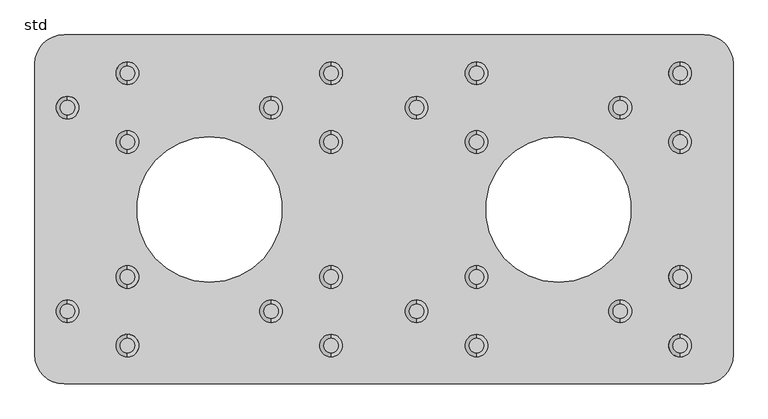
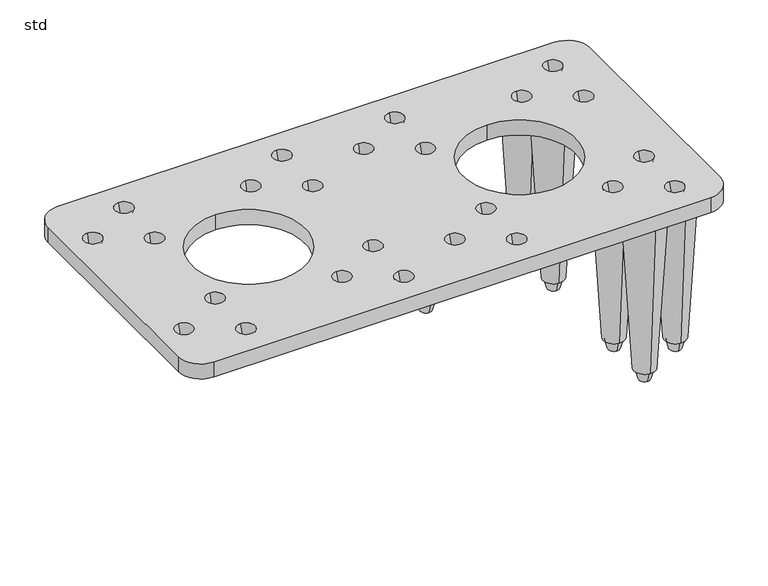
"""IFC4 building model written with IfcOpenShell, lengths in millimetres: unitary equipment geometry, Z_ME_UN_Aquacell_NG_Infiltration_Unit_Wavin_(nested) : std."""

from ifc_helpers import new_model, si_unit, frame, origin, place, context, project, spatial, polyline, circle_curve, source, transform, mapped, element, save
from ifc_brep_helpers import plane_surface, cylinder_surface, revolved_surface, advanced_brep


def std_054ed5cf(model_context):
    return source(origin(), model_context, "Body", "AdvancedBrep", [
        advanced_brep(
        [(794.0, 487.65, 175.0), (794.0, 462.35, 175.0), (794.0, 494.5, 200.0), (794.0, 455.5, 200.0)],
        [
            (0, 1, circle_curve(frame((794.0, 475.0, 175.0), z_axis=(0.0, 0.0, -1.0), x_axis=(0.0, 1.0, 0.0)), 12.65)),
            (1, 0, circle_curve(frame((794.0, 475.0, 175.0), z_axis=(0.0, 0.0, -1.0), x_axis=(0.0, -1.0, 0.0)), 12.65)),
            (2, 3, circle_curve(frame((794.0, 475.0, 200.0), z_axis=(0.0, 0.0, 1.0), x_axis=(0.0, -1.0, 0.0)), 19.5)),
            (3, 2, circle_curve(frame((794.0, 475.0, 200.0), z_axis=(0.0, 0.0, 1.0), x_axis=(0.0, 1.0, 0.0)), 19.5)),
            (3, 1),
            (0, 2),
        ],
        [
            plane_surface(frame((794.0, 475.0, 175.0), z_axis=(0.0, 0.0, -1.0), x_axis=(1.0, 0.0, 0.0))),
            plane_surface(frame((794.0, 475.0, 200.0), z_axis=(0.0, 0.0, 1.0), x_axis=(1.0, 0.0, 0.0))),
            revolved_surface(polyline([(794.0, 487.6499999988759, 175.0), (794.0, 494.5, 200.0)]), (794.0, 475.0, 128.8321168), (0.0, 0.0, 1.0)),
            revolved_surface(polyline([(794.0, 462.3500000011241, 175.0), (794.0, 455.5, 200.0)]), (794.0, 475.0, 128.8321168), (0.0, 0.0, 1.0)),
        ],
        [
            (0, [[1, 2]]),
            (1, [[3, 4]]),
            (2, [[-4, 5, -1, 6]]),
            (3, [[-3, -6, -2, -5]]),
        ],
    ),
        advanced_brep(
        [(794.0, 498.65, 200.0), (794.0, 451.35, 200.0), (794.0, 520.0, 565.0), (794.0, 430.0, 565.0)],
        [
            (0, 1, circle_curve(frame((794.0, 475.0, 200.0), z_axis=(0.0, 0.0, -1.0), x_axis=(0.0, 1.0, 0.0)), 23.65)),
            (1, 0, circle_curve(frame((794.0, 475.0, 200.0), z_axis=(0.0, 0.0, -1.0), x_axis=(0.0, -1.0, 0.0)), 23.65)),
            (2, 3, circle_curve(frame((794.0, 475.0, 565.0), z_axis=(0.0, 0.0, 1.0), x_axis=(0.0, -1.0, 0.0)), 45.0)),
            (3, 2, circle_curve(frame((794.0, 475.0, 565.0), z_axis=(0.0, 0.0, 1.0), x_axis=(0.0, 1.0, 0.0)), 45.0)),
            (3, 1),
            (0, 2),
        ],
        [
            plane_surface(frame((794.0, 475.0, 200.0), z_axis=(0.0, 0.0, -1.0), x_axis=(1.0, 0.0, 0.0))),
            plane_surface(frame((794.0, 475.0, 565.0), z_axis=(0.0, 0.0, 1.0), x_axis=(1.0, 0.0, 0.0))),
            revolved_surface(polyline([(794.0, 498.6500000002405, 199.99999999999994), (794.0, 520.0, 565.0)]), (794.0, 475.0, -204.3208431), (0.0, 0.0, 1.0)),
            revolved_surface(polyline([(794.0, 451.3499999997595, 199.99999999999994), (794.0, 430.0, 565.0)]), (794.0, 475.0, -204.3208431), (0.0, 0.0, 1.0)),
        ],
        [
            (0, [[1, 2]]),
            (1, [[3, 4]]),
            (2, [[-4, 5, -1, 6]]),
            (3, [[-3, -6, -2, -5]]),
        ],
    ),
        advanced_brep(
        [(1042.0, 78.65, 175.0), (1042.0, 53.35, 175.0), (1042.0, 85.5, 200.0), (1042.0, 46.5, 200.0)],
        [
            (0, 1, circle_curve(frame((1042.0, 66.0, 175.0), z_axis=(0.0, 0.0, -1.0), x_axis=(0.0, 1.0, 0.0)), 12.65)),
            (1, 0, circle_curve(frame((1042.0, 66.0, 175.0), z_axis=(0.0, 0.0, -1.0), x_axis=(0.0, -1.0, 0.0)), 12.65)),
            (2, 3, circle_curve(frame((1042.0, 66.0, 200.0), z_axis=(0.0, 0.0, 1.0), x_axis=(0.0, -1.0, 0.0)), 19.5)),
            (3, 2, circle_curve(frame((1042.0, 66.0, 200.0), z_axis=(0.0, 0.0, 1.0), x_axis=(0.0, 1.0, 0.0)), 19.5)),
            (3, 1),
            (0, 2),
        ],
        [
            plane_surface(frame((1042.0, 66.0, 175.0), z_axis=(0.0, 0.0, -1.0), x_axis=(1.0, 0.0, 0.0))),
            plane_surface(frame((1042.0, 66.0, 200.0), z_axis=(0.0, 0.0, 1.0), x_axis=(1.0, 0.0, 0.0))),
            revolved_surface(polyline([(1042.0, 78.6499999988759, 175.0), (1042.0, 85.5, 200.0)]), (1042.0, 66.0, 128.8321168), (0.0, 0.0, 1.0)),
            revolved_surface(polyline([(1042.0, 53.3500000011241, 175.0), (1042.0, 46.5, 200.0)]), (1042.0, 66.0, 128.8321168), (0.0, 0.0, 1.0)),
        ],
        [
            (0, [[1, 2]]),
            (1, [[3, 4]]),
            (2, [[-4, 5, -1, 6]]),
            (3, [[-3, -6, -2, -5]]),
        ],
    ),
        advanced_brep(
        [(1042.0, 196.65, 175.0), (1042.0, 171.35, 175.0), (1042.0, 203.5, 200.0), (1042.0, 164.5, 200.0)],
        [
            (0, 1, circle_curve(frame((1042.0, 184.0, 175.0), z_axis=(0.0, 0.0, -1.0), x_axis=(0.0, 1.0, 0.0)), 12.65)),
            (1, 0, circle_curve(frame((1042.0, 184.0, 175.0), z_axis=(0.0, 0.0, -1.0), x_axis=(0.0, -1.0, 0.0)), 12.65)),
            (2, 3, circle_curve(frame((1042.0, 184.0, 200.0), z_axis=(0.0, 0.0, 1.0), x_axis=(0.0, -1.0, 0.0)), 19.5)),
            (3, 2, circle_curve(frame((1042.0, 184.0, 200.0), z_axis=(0.0, 0.0, 1.0), x_axis=(0.0, 1.0, 0.0)), 19.5)),
            (3, 1),
            (0, 2),
        ],
        [
            plane_surface(frame((1042.0, 184.0, 175.0), z_axis=(0.0, 0.0, -1.0), x_axis=(1.0, 0.0, 0.0))),
            plane_surface(frame((1042.0, 184.0, 200.0), z_axis=(0.0, 0.0, 1.0), x_axis=(1.0, 0.0, 0.0))),
            revolved_surface(polyline([(1042.0, 196.6499999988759, 175.0), (1042.0, 203.5, 200.0)]), (1042.0, 184.0, 128.8321168), (0.0, 0.0, 1.0)),
            revolved_surface(polyline([(1042.0, 171.3500000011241, 175.0), (1042.0, 164.5, 200.0)]), (1042.0, 184.0, 128.8321168), (0.0, 0.0, 1.0)),
        ],
        [
            (0, [[1, 2]]),
            (1, [[3, 4]]),
            (2, [[-4, 5, -1, 6]]),
            (3, [[-3, -6, -2, -5]]),
        ],
    ),
        advanced_brep(
        [(1042.0, 89.65, 200.0), (1042.0, 42.35, 200.0), (1042.0, 111.0, 565.0), (1042.0, 21.0, 565.0)],
        [
            (0, 1, circle_curve(frame((1042.0, 66.0, 200.0), z_axis=(0.0, 0.0, -1.0), x_axis=(0.0, 1.0, 0.0)), 23.65)),
            (1, 0, circle_curve(frame((1042.0, 66.0, 200.0), z_axis=(0.0, 0.0, -1.0), x_axis=(0.0, -1.0, 0.0)), 23.65)),
            (2, 3, circle_curve(frame((1042.0, 66.0, 565.0), z_axis=(0.0, 0.0, 1.0), x_axis=(0.0, -1.0, 0.0)), 45.0)),
            (3, 2, circle_curve(frame((1042.0, 66.0, 565.0), z_axis=(0.0, 0.0, 1.0), x_axis=(0.0, 1.0, 0.0)), 45.0)),
            (3, 1),
            (0, 2),
        ],
        [
            plane_surface(frame((1042.0, 66.0, 200.0), z_axis=(0.0, 0.0, -1.0), x_axis=(1.0, 0.0, 0.0))),
            plane_surface(frame((1042.0, 66.0, 565.0), z_axis=(0.0, 0.0, 1.0), x_axis=(1.0, 0.0, 0.0))),
            revolved_surface(polyline([(1042.0, 89.65000000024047, 199.99999999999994), (1042.0, 111.0, 565.0)]), (1042.0, 66.0, -204.3208431), (0.0, 0.0, 1.0)),
            revolved_surface(polyline([(1042.0, 42.34999999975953, 199.99999999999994), (1042.0, 21.0, 565.0)]), (1042.0, 66.0, -204.3208431), (0.0, 0.0, 1.0)),
        ],
        [
            (0, [[1, 2]]),
            (1, [[3, 4]]),
            (2, [[-4, 5, -1, 6]]),
            (3, [[-3, -6, -2, -5]]),
        ],
    ),
        advanced_brep(
        [(1042.0, 207.65, 200.0), (1042.0, 160.35, 200.0), (1042.0, 229.0, 565.0), (1042.0, 139.0, 565.0)],
        [
            (0, 1, circle_curve(frame((1042.0, 184.0, 200.0), z_axis=(0.0, 0.0, -1.0), x_axis=(0.0, 1.0, 0.0)), 23.65)),
            (1, 0, circle_curve(frame((1042.0, 184.0, 200.0), z_axis=(0.0, 0.0, -1.0), x_axis=(0.0, -1.0, 0.0)), 23.65)),
            (2, 3, circle_curve(frame((1042.0, 184.0, 565.0), z_axis=(0.0, 0.0, 1.0), x_axis=(0.0, -1.0, 0.0)), 45.0)),
            (3, 2, circle_curve(frame((1042.0, 184.0, 565.0), z_axis=(0.0, 0.0, 1.0), x_axis=(0.0, 1.0, 0.0)), 45.0)),
            (3, 1),
            (0, 2),
        ],
        [
            plane_surface(frame((1042.0, 184.0, 200.0), z_axis=(0.0, 0.0, -1.0), x_axis=(1.0, 0.0, 0.0))),
            plane_surface(frame((1042.0, 184.0, 565.0), z_axis=(0.0, 0.0, 1.0), x_axis=(1.0, 0.0, 0.0))),
            revolved_surface(polyline([(1042.0, 207.65000000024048, 199.99999999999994), (1042.0, 229.0, 565.0)]), (1042.0, 184.0, -204.3208431), (0.0, 0.0, 1.0)),
            revolved_surface(polyline([(1042.0, 160.34999999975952, 199.99999999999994), (1042.0, 139.0, 565.0)]), (1042.0, 184.0, -204.3208431), (0.0, 0.0, 1.0)),
        ],
        [
            (0, [[1, 2]]),
            (1, [[3, 4]]),
            (2, [[-4, 5, -1, 6]]),
            (3, [[-3, -6, -2, -5]]),
        ],
    ),
        advanced_brep(
        [(1144.0, 137.65, 175.0), (1144.0, 112.35, 175.0), (1144.0, 144.5, 200.0), (1144.0, 105.5, 200.0)],
        [
            (0, 1, circle_curve(frame((1144.0, 125.0, 175.0), z_axis=(0.0, 0.0, -1.0), x_axis=(0.0, 1.0, 0.0)), 12.65)),
            (1, 0, circle_curve(frame((1144.0, 125.0, 175.0), z_axis=(0.0, 0.0, -1.0), x_axis=(0.0, -1.0, 0.0)), 12.65)),
            (2, 3, circle_curve(frame((1144.0, 125.0, 200.0), z_axis=(0.0, 0.0, 1.0), x_axis=(0.0, -1.0, 0.0)), 19.5)),
            (3, 2, circle_curve(frame((1144.0, 125.0, 200.0), z_axis=(0.0, 0.0, 1.0), x_axis=(0.0, 1.0, 0.0)), 19.5)),
            (3, 1),
            (0, 2),
        ],
        [
            plane_surface(frame((1144.0, 125.0, 175.0), z_axis=(0.0, 0.0, -1.0), x_axis=(1.0, 0.0, 0.0))),
            plane_surface(frame((1144.0, 125.0, 200.0), z_axis=(0.0, 0.0, 1.0), x_axis=(1.0, 0.0, 0.0))),
            revolved_surface(polyline([(1144.0, 137.6499999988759, 175.0), (1144.0, 144.5, 200.0)]), (1144.0, 125.0, 128.8321168), (0.0, 0.0, 1.0)),
            revolved_surface(polyline([(1144.0, 112.3500000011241, 175.0), (1144.0, 105.5, 200.0)]), (1144.0, 125.0, 128.8321168), (0.0, 0.0, 1.0)),
        ],
        [
            (0, [[1, 2]]),
            (1, [[3, 4]]),
            (2, [[-4, 5, -1, 6]]),
            (3, [[-3, -6, -2, -5]]),
        ],
    ),
        advanced_brep(
        [(1144.0, 148.65, 200.0), (1144.0, 101.35, 200.0), (1144.0, 170.0, 565.0), (1144.0, 80.0, 565.0)],
        [
            (0, 1, circle_curve(frame((1144.0, 125.0, 200.0), z_axis=(0.0, 0.0, -1.0), x_axis=(0.0, 1.0, 0.0)), 23.65)),
            (1, 0, circle_curve(frame((1144.0, 125.0, 200.0), z_axis=(0.0, 0.0, -1.0), x_axis=(0.0, -1.0, 0.0)), 23.65)),
            (2, 3, circle_curve(frame((1144.0, 125.0, 565.0), z_axis=(0.0, 0.0, 1.0), x_axis=(0.0, -1.0, 0.0)), 45.0)),
            (3, 2, circle_curve(frame((1144.0, 125.0, 565.0), z_axis=(0.0, 0.0, 1.0), x_axis=(0.0, 1.0, 0.0)), 45.0)),
            (3, 1),
            (0, 2),
        ],
        [
            plane_surface(frame((1144.0, 125.0, 200.0), z_axis=(0.0, 0.0, -1.0), x_axis=(1.0, 0.0, 0.0))),
            plane_surface(frame((1144.0, 125.0, 565.0), z_axis=(0.0, 0.0, 1.0), x_axis=(1.0, 0.0, 0.0))),
            revolved_surface(polyline([(1144.0, 148.65000000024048, 199.99999999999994), (1144.0, 170.0, 565.0)]), (1144.0, 125.0, -204.3208431), (0.0, 0.0, 1.0)),
            revolved_surface(polyline([(1144.0, 101.34999999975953, 199.99999999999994), (1144.0, 80.0, 565.0)]), (1144.0, 125.0, -204.3208431), (0.0, 0.0, 1.0)),
        ],
        [
            (0, [[1, 2]]),
            (1, [[3, 4]]),
            (2, [[-4, 5, -1, 6]]),
            (3, [[-3, -6, -2, -5]]),
        ],
    ),
        advanced_brep(
        [(1042.0, 428.65, 175.0), (1042.0, 403.35, 175.0), (1042.0, 435.5, 200.0), (1042.0, 396.5, 200.0)],
        [
            (0, 1, circle_curve(frame((1042.0, 416.0, 175.0), z_axis=(0.0, 0.0, -1.0), x_axis=(0.0, 1.0, 0.0)), 12.65)),
            (1, 0, circle_curve(frame((1042.0, 416.0, 175.0), z_axis=(0.0, 0.0, -1.0), x_axis=(0.0, -1.0, 0.0)), 12.65)),
            (2, 3, circle_curve(frame((1042.0, 416.0, 200.0), z_axis=(0.0, 0.0, 1.0), x_axis=(0.0, -1.0, 0.0)), 19.5)),
            (3, 2, circle_curve(frame((1042.0, 416.0, 200.0), z_axis=(0.0, 0.0, 1.0), x_axis=(0.0, 1.0, 0.0)), 19.5)),
            (3, 1),
            (0, 2),
        ],
        [
            plane_surface(frame((1042.0, 416.0, 175.0), z_axis=(0.0, 0.0, -1.0), x_axis=(1.0, 0.0, 0.0))),
            plane_surface(frame((1042.0, 416.0, 200.0), z_axis=(0.0, 0.0, 1.0), x_axis=(1.0, 0.0, 0.0))),
            revolved_surface(polyline([(1042.0, 428.6499999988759, 175.0), (1042.0, 435.5, 200.0)]), (1042.0, 416.0, 128.8321168), (0.0, 0.0, 1.0)),
            revolved_surface(polyline([(1042.0, 403.3500000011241, 175.0), (1042.0, 396.5, 200.0)]), (1042.0, 416.0, 128.8321168), (0.0, 0.0, 1.0)),
        ],
        [
            (0, [[1, 2]]),
            (1, [[3, 4]]),
            (2, [[-4, 5, -1, 6]]),
            (3, [[-3, -6, -2, -5]]),
        ],
    ),
        advanced_brep(
        [(1042.0, 546.65, 175.0), (1042.0, 521.35, 175.0), (1042.0, 553.5, 200.0), (1042.0, 514.5, 200.0)],
        [
            (0, 1, circle_curve(frame((1042.0, 534.0, 175.0), z_axis=(0.0, 0.0, -1.0), x_axis=(0.0, 1.0, 0.0)), 12.65)),
            (1, 0, circle_curve(frame((1042.0, 534.0, 175.0), z_axis=(0.0, 0.0, -1.0), x_axis=(0.0, -1.0, 0.0)), 12.65)),
            (2, 3, circle_curve(frame((1042.0, 534.0, 200.0), z_axis=(0.0, 0.0, 1.0), x_axis=(0.0, -1.0, 0.0)), 19.5)),
            (3, 2, circle_curve(frame((1042.0, 534.0, 200.0), z_axis=(0.0, 0.0, 1.0), x_axis=(0.0, 1.0, 0.0)), 19.5)),
            (3, 1),
            (0, 2),
        ],
        [
            plane_surface(frame((1042.0, 534.0, 175.0), z_axis=(0.0, 0.0, -1.0), x_axis=(1.0, 0.0, 0.0))),
            plane_surface(frame((1042.0, 534.0, 200.0), z_axis=(0.0, 0.0, 1.0), x_axis=(1.0, 0.0, 0.0))),
            revolved_surface(polyline([(1042.0, 546.6499999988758, 175.0), (1042.0, 553.5, 200.0)]), (1042.0, 534.0, 128.8321168), (0.0, 0.0, 1.0)),
            revolved_surface(polyline([(1042.0, 521.3500000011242, 175.0), (1042.0, 514.5, 200.0)]), (1042.0, 534.0, 128.8321168), (0.0, 0.0, 1.0)),
        ],
        [
            (0, [[1, 2]]),
            (1, [[3, 4]]),
            (2, [[-4, 5, -1, 6]]),
            (3, [[-3, -6, -2, -5]]),
        ],
    ),
        advanced_brep(
        [(1042.0, 439.65, 200.0), (1042.0, 392.35, 200.0), (1042.0, 461.0, 565.0), (1042.0, 371.0, 565.0)],
        [
            (0, 1, circle_curve(frame((1042.0, 416.0, 200.0), z_axis=(0.0, 0.0, -1.0), x_axis=(0.0, 1.0, 0.0)), 23.65)),
            (1, 0, circle_curve(frame((1042.0, 416.0, 200.0), z_axis=(0.0, 0.0, -1.0), x_axis=(0.0, -1.0, 0.0)), 23.65)),
            (2, 3, circle_curve(frame((1042.0, 416.0, 565.0), z_axis=(0.0, 0.0, 1.0), x_axis=(0.0, -1.0, 0.0)), 45.0)),
            (3, 2, circle_curve(frame((1042.0, 416.0, 565.0), z_axis=(0.0, 0.0, 1.0), x_axis=(0.0, 1.0, 0.0)), 45.0)),
            (3, 1),
            (0, 2),
        ],
        [
            plane_surface(frame((1042.0, 416.0, 200.0), z_axis=(0.0, 0.0, -1.0), x_axis=(1.0, 0.0, 0.0))),
            plane_surface(frame((1042.0, 416.0, 565.0), z_axis=(0.0, 0.0, 1.0), x_axis=(1.0, 0.0, 0.0))),
            revolved_surface(polyline([(1042.0, 439.6500000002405, 199.99999999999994), (1042.0, 461.0, 565.0)]), (1042.0, 416.0, -204.3208431), (0.0, 0.0, 1.0)),
            revolved_surface(polyline([(1042.0, 392.3499999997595, 199.99999999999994), (1042.0, 371.0, 565.0)]), (1042.0, 416.0, -204.3208431), (0.0, 0.0, 1.0)),
        ],
        [
            (0, [[1, 2]]),
            (1, [[3, 4]]),
            (2, [[-4, 5, -1, 6]]),
            (3, [[-3, -6, -2, -5]]),
        ],
    ),
        advanced_brep(
        [(1042.0, 557.65, 200.0), (1042.0, 510.35, 200.0), (1042.0, 579.0, 565.0), (1042.0, 489.0, 565.0)],
        [
            (0, 1, circle_curve(frame((1042.0, 534.0, 200.0), z_axis=(0.0, 0.0, -1.0), x_axis=(0.0, 1.0, 0.0)), 23.65)),
            (1, 0, circle_curve(frame((1042.0, 534.0, 200.0), z_axis=(0.0, 0.0, -1.0), x_axis=(0.0, -1.0, 0.0)), 23.65)),
            (2, 3, circle_curve(frame((1042.0, 534.0, 565.0), z_axis=(0.0, 0.0, 1.0), x_axis=(0.0, -1.0, 0.0)), 45.0)),
            (3, 2, circle_curve(frame((1042.0, 534.0, 565.0), z_axis=(0.0, 0.0, 1.0), x_axis=(0.0, 1.0, 0.0)), 45.0)),
            (3, 1),
            (0, 2),
        ],
        [
            plane_surface(frame((1042.0, 534.0, 200.0), z_axis=(0.0, 0.0, -1.0), x_axis=(1.0, 0.0, 0.0))),
            plane_surface(frame((1042.0, 534.0, 565.0), z_axis=(0.0, 0.0, 1.0), x_axis=(1.0, 0.0, 0.0))),
            revolved_surface(polyline([(1042.0, 557.6500000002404, 199.99999999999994), (1042.0, 579.0, 565.0)]), (1042.0, 534.0, -204.3208431), (0.0, 0.0, 1.0)),
            revolved_surface(polyline([(1042.0, 510.3499999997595, 199.99999999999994), (1042.0, 489.0, 565.0)]), (1042.0, 534.0, -204.3208431), (0.0, 0.0, 1.0)),
        ],
        [
            (0, [[1, 2]]),
            (1, [[3, 4]]),
            (2, [[-4, 5, -1, 6]]),
            (3, [[-3, -6, -2, -5]]),
        ],
    ),
        advanced_brep(
        [(1150.0, 600.0, 565.0), (1200.0, 550.0, 565.0), (1200.0, 50.0, 565.0), (1150.0, 0.0, 565.0), (50.0, 0.0, 565.0), (0.0, 50.0, 565.0), (0.0, 550.0, 565.0), (50.0, 600.0, 565.0), (300.0, 425.0, 565.0), (300.0, 175.0, 565.0), (900.0, 425.0, 565.0), (900.0, 175.0, 565.0), (1150.0, 600.0, 600.0), (50.0, 600.0, 600.0), (0.0, 550.0, 600.0), (0.0, 50.0, 600.0), (50.0, 0.0, 600.0), (1150.0, 0.0, 600.0), (1200.0, 50.0, 600.0), (1200.0, 550.0, 600.0), (300.0, 425.0, 600.0), (300.0, 175.0, 600.0), (406.0, 494.5, 600.0), (406.0, 455.5, 600.0), (509.0, 553.5, 600.0), (509.0, 514.5, 600.0), (509.0, 435.5, 600.0), (509.0, 396.5, 600.0), (656.0, 494.5, 600.0), (656.0, 455.5, 600.0), (759.0, 553.5, 600.0), (759.0, 514.5, 600.0), (759.0, 435.5, 600.0), (759.0, 396.5, 600.0), (1006.0, 494.5, 600.0), (1006.0, 455.5, 600.0), (1109.0, 553.5, 600.0), (1109.0, 514.5, 600.0), (1109.0, 435.5, 600.0), (1109.0, 396.5, 600.0), (1006.0, 144.5, 600.0), (1006.0, 105.5, 600.0), (1109.0, 203.5, 600.0), (1109.0, 164.5, 600.0), (1109.0, 85.5, 600.0), (1109.0, 46.5, 600.0), (656.0, 144.5, 600.0), (656.0, 105.5, 600.0), (759.0, 203.5, 600.0), (759.0, 164.5, 600.0), (759.0, 85.5, 600.0), (759.0, 46.5, 600.0), (406.0, 144.5, 600.0), (406.0, 105.5, 600.0), (509.0, 203.5, 600.0), (509.0, 164.5, 600.0), (509.0, 85.5, 600.0), (509.0, 46.5, 600.0), (56.0, 144.5, 600.0), (56.0, 105.5, 600.0), (159.0, 203.5, 600.0), (159.0, 164.5, 600.0), (159.0, 85.5, 600.0), (159.0, 46.5, 600.0), (159.0, 553.5, 600.0), (159.0, 514.5, 600.0), (56.0, 494.5, 600.0), (56.0, 455.5, 600.0), (159.0, 435.5, 600.0), (159.0, 396.5, 600.0), (900.0, 175.0, 600.0), (900.0, 425.0, 600.0), (406.0, 487.65, 575.0), (406.0, 462.35, 575.0), (509.0, 546.65, 575.0), (509.0, 521.35, 575.0), (509.0, 428.65, 575.0), (509.0, 403.35, 575.0), (656.0, 487.65, 575.0), (656.0, 462.35, 575.0), (759.0, 546.65, 575.0), (759.0, 521.35, 575.0), (759.0, 428.65, 575.0), (759.0, 403.35, 575.0), (1006.0, 487.65, 575.0), (1006.0, 462.35, 575.0), (1109.0, 546.65, 575.0), (1109.0, 521.35, 575.0), (1109.0, 428.65, 575.0), (1109.0, 403.35, 575.0), (1006.0, 137.65, 575.0), (1006.0, 112.35, 575.0), (1109.0, 196.65, 575.0), (1109.0, 171.35, 575.0), (1109.0, 78.65, 575.0), (1109.0, 53.35, 575.0), (656.0, 137.65, 575.0), (656.0, 112.35, 575.0), (759.0, 196.65, 575.0), (759.0, 171.35, 575.0), (759.0, 78.65, 575.0), (759.0, 53.35, 575.0), (406.0, 137.65, 575.0), (406.0, 112.35, 575.0), (509.0, 196.65, 575.0), (509.0, 171.35, 575.0), (509.0, 78.65, 575.0), (509.0, 53.35, 575.0), (56.0, 137.65, 575.0), (56.0, 112.35, 575.0), (159.0, 196.65, 575.0), (159.0, 171.35, 575.0), (159.0, 78.65, 575.0), (159.0, 53.35, 575.0), (159.0, 546.65, 575.0), (159.0, 521.35, 575.0), (56.0, 487.65, 575.0), (56.0, 462.35, 575.0), (159.0, 428.65, 575.0), (159.0, 403.35, 575.0)],
        [
            (0, 1, circle_curve(frame((1150.0, 550.0, 565.0), z_axis=(0.0, 0.0, -1.0), x_axis=(0.0, -1.0, 0.0)), 50.0)),
            (1, 2),
            (2, 3, circle_curve(frame((1150.0, 50.0, 565.0), z_axis=(0.0, 0.0, -1.0), x_axis=(0.0, -1.0, 0.0)), 50.0)),
            (3, 4),
            (4, 5, circle_curve(frame((50.0, 50.0, 565.0), z_axis=(0.0, 0.0, -1.0), x_axis=(0.0, -1.0, 0.0)), 50.0)),
            (5, 6),
            (6, 7, circle_curve(frame((50.0, 550.0, 565.0), z_axis=(0.0, 0.0, -1.0), x_axis=(0.0, -1.0, 0.0)), 50.0)),
            (7, 0),
            (8, 9, circle_curve(frame((300.0, 300.0, 565.0), z_axis=(0.0, 0.0, 1.0), x_axis=(0.0, -1.0, 0.0)), 125.0)),
            (9, 8, circle_curve(frame((300.0, 300.0, 565.0), z_axis=(0.0, 0.0, 1.0), x_axis=(0.0, -1.0, 0.0)), 125.0)),
            (10, 11, circle_curve(frame((900.0, 300.0, 565.0), z_axis=(0.0, 0.0, 1.0), x_axis=(0.0, -1.0, 0.0)), 125.0)),
            (11, 10, circle_curve(frame((900.0, 300.0, 565.0), z_axis=(0.0, 0.0, 1.0), x_axis=(0.0, -1.0, 0.0)), 125.0)),
            (12, 13),
            (13, 14, circle_curve(frame((50.0, 550.0, 600.0), z_axis=(0.0, 0.0, 1.0), x_axis=(0.0, -1.0, 0.0)), 50.0)),
            (14, 15),
            (15, 16, circle_curve(frame((50.0, 50.0, 600.0), z_axis=(0.0, 0.0, 1.0), x_axis=(0.0, -1.0, 0.0)), 50.0)),
            (16, 17),
            (17, 18, circle_curve(frame((1150.0, 50.0, 600.0), z_axis=(0.0, 0.0, 1.0), x_axis=(0.0, -1.0, 0.0)), 50.0)),
            (18, 19),
            (19, 12, circle_curve(frame((1150.0, 550.0, 600.0), z_axis=(0.0, 0.0, 1.0), x_axis=(0.0, -1.0, 0.0)), 50.0)),
            (20, 21, circle_curve(frame((300.0, 300.0, 600.0), z_axis=(0.0, 0.0, -1.0), x_axis=(0.0, -1.0, 0.0)), 125.0)),
            (21, 20, circle_curve(frame((300.0, 300.0, 600.0), z_axis=(0.0, 0.0, -1.0), x_axis=(0.0, -1.0, 0.0)), 125.0)),
            (22, 23, circle_curve(frame((406.0, 475.0, 600.0), z_axis=(0.0, 0.0, -1.0), x_axis=(0.0, 1.0, 0.0)), 19.5)),
            (23, 22, circle_curve(frame((406.0, 475.0, 600.0), z_axis=(0.0, 0.0, -1.0), x_axis=(0.0, -1.0, 0.0)), 19.5)),
            (24, 25, circle_curve(frame((509.0, 534.0, 600.0), z_axis=(0.0, 0.0, -1.0), x_axis=(0.0, 1.0, 0.0)), 19.5)),
            (25, 24, circle_curve(frame((509.0, 534.0, 600.0), z_axis=(0.0, 0.0, -1.0), x_axis=(0.0, -1.0, 0.0)), 19.5)),
            (26, 27, circle_curve(frame((509.0, 416.0, 600.0), z_axis=(0.0, 0.0, -1.0), x_axis=(0.0, 1.0, 0.0)), 19.5)),
            (27, 26, circle_curve(frame((509.0, 416.0, 600.0), z_axis=(0.0, 0.0, -1.0), x_axis=(0.0, -1.0, 0.0)), 19.5)),
            (28, 29, circle_curve(frame((656.0, 475.0, 600.0), z_axis=(0.0, 0.0, -1.0), x_axis=(0.0, 1.0, 0.0)), 19.5)),
            (29, 28, circle_curve(frame((656.0, 475.0, 600.0), z_axis=(0.0, 0.0, -1.0), x_axis=(0.0, -1.0, 0.0)), 19.5)),
            (30, 31, circle_curve(frame((759.0, 534.0, 600.0), z_axis=(0.0, 0.0, -1.0), x_axis=(0.0, 1.0, 0.0)), 19.5)),
            (31, 30, circle_curve(frame((759.0, 534.0, 600.0), z_axis=(0.0, 0.0, -1.0), x_axis=(0.0, -1.0, 0.0)), 19.5)),
            (32, 33, circle_curve(frame((759.0, 416.0, 600.0), z_axis=(0.0, 0.0, -1.0), x_axis=(0.0, 1.0, 0.0)), 19.5)),
            (33, 32, circle_curve(frame((759.0, 416.0, 600.0), z_axis=(0.0, 0.0, -1.0), x_axis=(0.0, -1.0, 0.0)), 19.5)),
            (34, 35, circle_curve(frame((1006.0, 475.0, 600.0), z_axis=(0.0, 0.0, -1.0), x_axis=(0.0, 1.0, 0.0)), 19.5)),
            (35, 34, circle_curve(frame((1006.0, 475.0, 600.0), z_axis=(0.0, 0.0, -1.0), x_axis=(0.0, -1.0, 0.0)), 19.5)),
            (36, 37, circle_curve(frame((1109.0, 534.0, 600.0), z_axis=(0.0, 0.0, -1.0), x_axis=(0.0, 1.0, 0.0)), 19.5)),
            (37, 36, circle_curve(frame((1109.0, 534.0, 600.0), z_axis=(0.0, 0.0, -1.0), x_axis=(0.0, -1.0, 0.0)), 19.5)),
            (38, 39, circle_curve(frame((1109.0, 416.0, 600.0), z_axis=(0.0, 0.0, -1.0), x_axis=(0.0, 1.0, 0.0)), 19.5)),
            (39, 38, circle_curve(frame((1109.0, 416.0, 600.0), z_axis=(0.0, 0.0, -1.0), x_axis=(0.0, -1.0, 0.0)), 19.5)),
            (40, 41, circle_curve(frame((1006.0, 125.0, 600.0), z_axis=(0.0, 0.0, -1.0), x_axis=(0.0, 1.0, 0.0)), 19.5)),
            (41, 40, circle_curve(frame((1006.0, 125.0, 600.0), z_axis=(0.0, 0.0, -1.0), x_axis=(0.0, -1.0, 0.0)), 19.5)),
            (42, 43, circle_curve(frame((1109.0, 184.0, 600.0), z_axis=(0.0, 0.0, -1.0), x_axis=(0.0, 1.0, 0.0)), 19.5)),
            (43, 42, circle_curve(frame((1109.0, 184.0, 600.0), z_axis=(0.0, 0.0, -1.0), x_axis=(0.0, -1.0, 0.0)), 19.5)),
            (44, 45, circle_curve(frame((1109.0, 66.0, 600.0), z_axis=(0.0, 0.0, -1.0), x_axis=(0.0, 1.0, 0.0)), 19.5)),
            (45, 44, circle_curve(frame((1109.0, 66.0, 600.0), z_axis=(0.0, 0.0, -1.0), x_axis=(0.0, -1.0, 0.0)), 19.5)),
            (46, 47, circle_curve(frame((656.0, 125.0, 600.0), z_axis=(0.0, 0.0, -1.0), x_axis=(0.0, 1.0, 0.0)), 19.5)),
            (47, 46, circle_curve(frame((656.0, 125.0, 600.0), z_axis=(0.0, 0.0, -1.0), x_axis=(0.0, -1.0, 0.0)), 19.5)),
            (48, 49, circle_curve(frame((759.0, 184.0, 600.0), z_axis=(0.0, 0.0, -1.0), x_axis=(0.0, 1.0, 0.0)), 19.5)),
            (49, 48, circle_curve(frame((759.0, 184.0, 600.0), z_axis=(0.0, 0.0, -1.0), x_axis=(0.0, -1.0, 0.0)), 19.5)),
            (50, 51, circle_curve(frame((759.0, 66.0, 600.0), z_axis=(0.0, 0.0, -1.0), x_axis=(0.0, 1.0, 0.0)), 19.5)),
            (51, 50, circle_curve(frame((759.0, 66.0, 600.0), z_axis=(0.0, 0.0, -1.0), x_axis=(0.0, -1.0, 0.0)), 19.5)),
            (52, 53, circle_curve(frame((406.0, 125.0, 600.0), z_axis=(0.0, 0.0, -1.0), x_axis=(0.0, 1.0, 0.0)), 19.5)),
            (53, 52, circle_curve(frame((406.0, 125.0, 600.0), z_axis=(0.0, 0.0, -1.0), x_axis=(0.0, -1.0, 0.0)), 19.5)),
            (54, 55, circle_curve(frame((509.0, 184.0, 600.0), z_axis=(0.0, 0.0, -1.0), x_axis=(0.0, 1.0, 0.0)), 19.5)),
            (55, 54, circle_curve(frame((509.0, 184.0, 600.0), z_axis=(0.0, 0.0, -1.0), x_axis=(0.0, -1.0, 0.0)), 19.5)),
            (56, 57, circle_curve(frame((509.0, 66.0, 600.0), z_axis=(0.0, 0.0, -1.0), x_axis=(0.0, 1.0, 0.0)), 19.5)),
            (57, 56, circle_curve(frame((509.0, 66.0, 600.0), z_axis=(0.0, 0.0, -1.0), x_axis=(0.0, -1.0, 0.0)), 19.5)),
            (58, 59, circle_curve(frame((56.0, 125.0, 600.0), z_axis=(0.0, 0.0, -1.0), x_axis=(0.0, 1.0, 0.0)), 19.5)),
            (59, 58, circle_curve(frame((56.0, 125.0, 600.0), z_axis=(0.0, 0.0, -1.0), x_axis=(0.0, -1.0, 0.0)), 19.5)),
            (60, 61, circle_curve(frame((159.0, 184.0, 600.0), z_axis=(0.0, 0.0, -1.0), x_axis=(0.0, 1.0, 0.0)), 19.5)),
            (61, 60, circle_curve(frame((159.0, 184.0, 600.0), z_axis=(0.0, 0.0, -1.0), x_axis=(0.0, -1.0, 0.0)), 19.5)),
            (62, 63, circle_curve(frame((159.0, 66.0, 600.0), z_axis=(0.0, 0.0, -1.0), x_axis=(0.0, 1.0, 0.0)), 19.5)),
            (63, 62, circle_curve(frame((159.0, 66.0, 600.0), z_axis=(0.0, 0.0, -1.0), x_axis=(0.0, -1.0, 0.0)), 19.5)),
            (64, 65, circle_curve(frame((159.0, 534.0, 600.0), z_axis=(0.0, 0.0, -1.0), x_axis=(0.0, 1.0, 0.0)), 19.5)),
            (65, 64, circle_curve(frame((159.0, 534.0, 600.0), z_axis=(0.0, 0.0, -1.0), x_axis=(0.0, -1.0, 0.0)), 19.5)),
            (66, 67, circle_curve(frame((56.0, 475.0, 600.0), z_axis=(0.0, 0.0, -1.0), x_axis=(0.0, 1.0, 0.0)), 19.5)),
            (67, 66, circle_curve(frame((56.0, 475.0, 600.0), z_axis=(0.0, 0.0, -1.0), x_axis=(0.0, -1.0, 0.0)), 19.5)),
            (68, 69, circle_curve(frame((159.0, 416.0, 600.0), z_axis=(0.0, 0.0, -1.0), x_axis=(0.0, 1.0, 0.0)), 19.5)),
            (69, 68, circle_curve(frame((159.0, 416.0, 600.0), z_axis=(0.0, 0.0, -1.0), x_axis=(0.0, -1.0, 0.0)), 19.5)),
            (70, 71, circle_curve(frame((900.0, 300.0, 600.0), z_axis=(0.0, 0.0, -1.0), x_axis=(0.0, -1.0, 0.0)), 125.0)),
            (71, 70, circle_curve(frame((900.0, 300.0, 600.0), z_axis=(0.0, 0.0, -1.0), x_axis=(0.0, -1.0, 0.0)), 125.0)),
            (7, 13),
            (12, 0),
            (6, 14),
            (5, 15),
            (4, 16),
            (3, 17),
            (2, 18),
            (1, 19),
            (9, 21),
            (20, 8),
            (72, 73, circle_curve(frame((406.0, 475.0, 575.0), z_axis=(0.0, 0.0, 1.0), x_axis=(0.0, -1.0, 0.0)), 12.65)),
            (73, 72, circle_curve(frame((406.0, 475.0, 575.0), z_axis=(0.0, 0.0, 1.0), x_axis=(0.0, 1.0, 0.0)), 12.65)),
            (73, 23),
            (22, 72),
            (74, 75, circle_curve(frame((509.0, 534.0, 575.0), z_axis=(0.0, 0.0, 1.0), x_axis=(0.0, -1.0, 0.0)), 12.65)),
            (75, 74, circle_curve(frame((509.0, 534.0, 575.0), z_axis=(0.0, 0.0, 1.0), x_axis=(0.0, 1.0, 0.0)), 12.65)),
            (75, 25),
            (24, 74),
            (76, 77, circle_curve(frame((509.0, 416.0, 575.0), z_axis=(0.0, 0.0, 1.0), x_axis=(0.0, -1.0, 0.0)), 12.65)),
            (77, 76, circle_curve(frame((509.0, 416.0, 575.0), z_axis=(0.0, 0.0, 1.0), x_axis=(0.0, 1.0, 0.0)), 12.65)),
            (77, 27),
            (26, 76),
            (78, 79, circle_curve(frame((656.0, 475.0, 575.0), z_axis=(0.0, 0.0, 1.0), x_axis=(0.0, -1.0, 0.0)), 12.65)),
            (79, 78, circle_curve(frame((656.0, 475.0, 575.0), z_axis=(0.0, 0.0, 1.0), x_axis=(0.0, 1.0, 0.0)), 12.65)),
            (79, 29),
            (28, 78),
            (80, 81, circle_curve(frame((759.0, 534.0, 575.0), z_axis=(0.0, 0.0, 1.0), x_axis=(0.0, -1.0, 0.0)), 12.65)),
            (81, 80, circle_curve(frame((759.0, 534.0, 575.0), z_axis=(0.0, 0.0, 1.0), x_axis=(0.0, 1.0, 0.0)), 12.65)),
            (81, 31),
            (30, 80),
            (82, 83, circle_curve(frame((759.0, 416.0, 575.0), z_axis=(0.0, 0.0, 1.0), x_axis=(0.0, -1.0, 0.0)), 12.65)),
            (83, 82, circle_curve(frame((759.0, 416.0, 575.0), z_axis=(0.0, 0.0, 1.0), x_axis=(0.0, 1.0, 0.0)), 12.65)),
            (83, 33),
            (32, 82),
            (84, 85, circle_curve(frame((1006.0, 475.0, 575.0), z_axis=(0.0, 0.0, 1.0), x_axis=(0.0, -1.0, 0.0)), 12.65)),
            (85, 84, circle_curve(frame((1006.0, 475.0, 575.0), z_axis=(0.0, 0.0, 1.0), x_axis=(0.0, 1.0, 0.0)), 12.65)),
            (85, 35),
            (34, 84),
            (86, 87, circle_curve(frame((1109.0, 534.0, 575.0), z_axis=(0.0, 0.0, 1.0), x_axis=(0.0, -1.0, 0.0)), 12.65)),
            (87, 86, circle_curve(frame((1109.0, 534.0, 575.0), z_axis=(0.0, 0.0, 1.0), x_axis=(0.0, 1.0, 0.0)), 12.65)),
            (87, 37),
            (36, 86),
            (88, 89, circle_curve(frame((1109.0, 416.0, 575.0), z_axis=(0.0, 0.0, 1.0), x_axis=(0.0, -1.0, 0.0)), 12.65)),
            (89, 88, circle_curve(frame((1109.0, 416.0, 575.0), z_axis=(0.0, 0.0, 1.0), x_axis=(0.0, 1.0, 0.0)), 12.65)),
            (89, 39),
            (38, 88),
            (90, 91, circle_curve(frame((1006.0, 125.0, 575.0), z_axis=(0.0, 0.0, 1.0), x_axis=(0.0, -1.0, 0.0)), 12.65)),
            (91, 90, circle_curve(frame((1006.0, 125.0, 575.0), z_axis=(0.0, 0.0, 1.0), x_axis=(0.0, 1.0, 0.0)), 12.65)),
            (91, 41),
            (40, 90),
            (92, 93, circle_curve(frame((1109.0, 184.0, 575.0), z_axis=(0.0, 0.0, 1.0), x_axis=(0.0, -1.0, 0.0)), 12.65)),
            (93, 92, circle_curve(frame((1109.0, 184.0, 575.0), z_axis=(0.0, 0.0, 1.0), x_axis=(0.0, 1.0, 0.0)), 12.65)),
            (93, 43),
            (42, 92),
            (94, 95, circle_curve(frame((1109.0, 66.0, 575.0), z_axis=(0.0, 0.0, 1.0), x_axis=(0.0, -1.0, 0.0)), 12.65)),
            (95, 94, circle_curve(frame((1109.0, 66.0, 575.0), z_axis=(0.0, 0.0, 1.0), x_axis=(0.0, 1.0, 0.0)), 12.65)),
            (95, 45),
            (44, 94),
            (96, 97, circle_curve(frame((656.0, 125.0, 575.0), z_axis=(0.0, 0.0, 1.0), x_axis=(0.0, -1.0, 0.0)), 12.65)),
            (97, 96, circle_curve(frame((656.0, 125.0, 575.0), z_axis=(0.0, 0.0, 1.0), x_axis=(0.0, 1.0, 0.0)), 12.65)),
            (97, 47),
            (46, 96),
            (98, 99, circle_curve(frame((759.0, 184.0, 575.0), z_axis=(0.0, 0.0, 1.0), x_axis=(0.0, -1.0, 0.0)), 12.65)),
            (99, 98, circle_curve(frame((759.0, 184.0, 575.0), z_axis=(0.0, 0.0, 1.0), x_axis=(0.0, 1.0, 0.0)), 12.65)),
            (99, 49),
            (48, 98),
            (100, 101, circle_curve(frame((759.0, 66.0, 575.0), z_axis=(0.0, 0.0, 1.0), x_axis=(0.0, -1.0, 0.0)), 12.65)),
            (101, 100, circle_curve(frame((759.0, 66.0, 575.0), z_axis=(0.0, 0.0, 1.0), x_axis=(0.0, 1.0, 0.0)), 12.65)),
            (101, 51),
            (50, 100),
            (102, 103, circle_curve(frame((406.0, 125.0, 575.0), z_axis=(0.0, 0.0, 1.0), x_axis=(0.0, -1.0, 0.0)), 12.65)),
            (103, 102, circle_curve(frame((406.0, 125.0, 575.0), z_axis=(0.0, 0.0, 1.0), x_axis=(0.0, 1.0, 0.0)), 12.65)),
            (103, 53),
            (52, 102),
            (104, 105, circle_curve(frame((509.0, 184.0, 575.0), z_axis=(0.0, 0.0, 1.0), x_axis=(0.0, -1.0, 0.0)), 12.65)),
            (105, 104, circle_curve(frame((509.0, 184.0, 575.0), z_axis=(0.0, 0.0, 1.0), x_axis=(0.0, 1.0, 0.0)), 12.65)),
            (105, 55),
            (54, 104),
            (106, 107, circle_curve(frame((509.0, 66.0, 575.0), z_axis=(0.0, 0.0, 1.0), x_axis=(0.0, -1.0, 0.0)), 12.65)),
            (107, 106, circle_curve(frame((509.0, 66.0, 575.0), z_axis=(0.0, 0.0, 1.0), x_axis=(0.0, 1.0, 0.0)), 12.65)),
            (107, 57),
            (56, 106),
            (108, 109, circle_curve(frame((56.0, 125.0, 575.0), z_axis=(0.0, 0.0, 1.0), x_axis=(0.0, -1.0, 0.0)), 12.65)),
            (109, 108, circle_curve(frame((56.0, 125.0, 575.0), z_axis=(0.0, 0.0, 1.0), x_axis=(0.0, 1.0, 0.0)), 12.65)),
            (109, 59),
            (58, 108),
            (110, 111, circle_curve(frame((159.0, 184.0, 575.0), z_axis=(0.0, 0.0, 1.0), x_axis=(0.0, -1.0, 0.0)), 12.65)),
            (111, 110, circle_curve(frame((159.0, 184.0, 575.0), z_axis=(0.0, 0.0, 1.0), x_axis=(0.0, 1.0, 0.0)), 12.65)),
            (111, 61),
            (60, 110),
            (112, 113, circle_curve(frame((159.0, 66.0, 575.0), z_axis=(0.0, 0.0, 1.0), x_axis=(0.0, -1.0, 0.0)), 12.65)),
            (113, 112, circle_curve(frame((159.0, 66.0, 575.0), z_axis=(0.0, 0.0, 1.0), x_axis=(0.0, 1.0, 0.0)), 12.65)),
            (113, 63),
            (62, 112),
            (114, 115, circle_curve(frame((159.0, 534.0, 575.0), z_axis=(0.0, 0.0, 1.0), x_axis=(0.0, -1.0, 0.0)), 12.65)),
            (115, 114, circle_curve(frame((159.0, 534.0, 575.0), z_axis=(0.0, 0.0, 1.0), x_axis=(0.0, 1.0, 0.0)), 12.65)),
            (115, 65),
            (64, 114),
            (116, 117, circle_curve(frame((56.0, 475.0, 575.0), z_axis=(0.0, 0.0, 1.0), x_axis=(0.0, -1.0, 0.0)), 12.65)),
            (117, 116, circle_curve(frame((56.0, 475.0, 575.0), z_axis=(0.0, 0.0, 1.0), x_axis=(0.0, 1.0, 0.0)), 12.65)),
            (117, 67),
            (66, 116),
            (118, 119, circle_curve(frame((159.0, 416.0, 575.0), z_axis=(0.0, 0.0, 1.0), x_axis=(0.0, -1.0, 0.0)), 12.65)),
            (119, 118, circle_curve(frame((159.0, 416.0, 575.0), z_axis=(0.0, 0.0, 1.0), x_axis=(0.0, 1.0, 0.0)), 12.65)),
            (119, 69),
            (68, 118),
            (70, 11),
            (10, 71),
        ],
        [
            plane_surface(frame((50.0, 600.0, 565.0), z_axis=(0.0, 0.0, -1.0), x_axis=(1.0, 0.0, 0.0))),
            plane_surface(frame((50.0, 600.0, 600.0), z_axis=(0.0, 0.0, 1.0), x_axis=(-1.0, 0.0, 0.0))),
            plane_surface(frame((1150.0, 600.0, 600.0), z_axis=(0.0, 1.0, 0.0), x_axis=(0.0, 0.0, -1.0))),
            cylinder_surface(frame((50.0, 550.0, 565.0), z_axis=(0.0, 0.0, 1.0), x_axis=(0.0, -1.0, 0.0)), 50.0),
            plane_surface(frame((0.0, 550.0, 600.0), z_axis=(-1.0, 0.0, 0.0), x_axis=(0.0, 0.0, -1.0))),
            cylinder_surface(frame((50.0, 50.0, 565.0), z_axis=(0.0, 0.0, 1.0), x_axis=(0.0, -1.0, 0.0)), 50.0),
            plane_surface(frame((50.0, 0.0, 600.0), z_axis=(0.0, -1.0, 0.0), x_axis=(0.0, 0.0, -1.0))),
            cylinder_surface(frame((1150.0, 50.0, 565.0), z_axis=(0.0, 0.0, 1.0), x_axis=(0.0, -1.0, 0.0)), 50.0),
            plane_surface(frame((1200.0, 50.0, 600.0), z_axis=(1.0, 0.0, 0.0), x_axis=(0.0, 0.0, -1.0))),
            cylinder_surface(frame((1150.0, 550.0, 565.0), z_axis=(0.0, 0.0, 1.0), x_axis=(0.0, -1.0, 0.0)), 50.0),
            revolved_surface(polyline([(300.0, 175.0, 565.0), (300.0, 175.0, 600.0)]), (300.0, 300.0, 600.0), (0.0, 0.0, -1.0)),
            plane_surface(frame((406.0, 475.0, 575.0), z_axis=(0.0, 0.0, 1.0), x_axis=(1.0, 0.0, 0.0))),
            revolved_surface(polyline([(406.0, 455.5, 600.0), (406.0, 462.3500000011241, 575.0)]), (406.0, 475.0, 528.8321168), (0.0, 0.0, 1.0)),
            revolved_surface(polyline([(406.0, 494.5, 600.0), (406.0, 487.6499999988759, 575.0)]), (406.0, 475.0, 528.8321168), (0.0, 0.0, 1.0)),
            plane_surface(frame((509.0, 534.0, 575.0), z_axis=(0.0, 0.0, 1.0), x_axis=(1.0, 0.0, 0.0))),
            revolved_surface(polyline([(509.0, 514.5, 600.0), (509.0, 521.3500000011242, 575.0)]), (509.0, 534.0, 528.8321168), (0.0, 0.0, 1.0)),
            revolved_surface(polyline([(509.0, 553.5, 600.0), (509.0, 546.6499999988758, 575.0)]), (509.0, 534.0, 528.8321168), (0.0, 0.0, 1.0)),
            plane_surface(frame((509.0, 416.0, 575.0), z_axis=(0.0, 0.0, 1.0), x_axis=(1.0, 0.0, 0.0))),
            revolved_surface(polyline([(509.0, 396.5, 600.0), (509.0, 403.3500000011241, 575.0)]), (509.0, 416.0, 528.8321168), (0.0, 0.0, 1.0)),
            revolved_surface(polyline([(509.0, 435.5, 600.0), (509.0, 428.6499999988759, 575.0)]), (509.0, 416.0, 528.8321168), (0.0, 0.0, 1.0)),
            plane_surface(frame((656.0, 475.0, 575.0), z_axis=(0.0, 0.0, 1.0), x_axis=(1.0, 0.0, 0.0))),
            revolved_surface(polyline([(656.0, 455.5, 600.0), (656.0, 462.3500000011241, 575.0)]), (656.0, 475.0, 528.8321168), (0.0, 0.0, 1.0)),
            revolved_surface(polyline([(656.0, 494.5, 600.0), (656.0, 487.6499999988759, 575.0)]), (656.0, 475.0, 528.8321168), (0.0, 0.0, 1.0)),
            plane_surface(frame((759.0, 534.0, 575.0), z_axis=(0.0, 0.0, 1.0), x_axis=(1.0, 0.0, 0.0))),
            revolved_surface(polyline([(759.0, 514.5, 600.0), (759.0, 521.3500000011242, 575.0)]), (759.0, 534.0, 528.8321168), (0.0, 0.0, 1.0)),
            revolved_surface(polyline([(759.0, 553.5, 600.0), (759.0, 546.6499999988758, 575.0)]), (759.0, 534.0, 528.8321168), (0.0, 0.0, 1.0)),
            plane_surface(frame((759.0, 416.0, 575.0), z_axis=(0.0, 0.0, 1.0), x_axis=(1.0, 0.0, 0.0))),
            revolved_surface(polyline([(759.0, 396.5, 600.0), (759.0, 403.3500000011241, 575.0)]), (759.0, 416.0, 528.8321168), (0.0, 0.0, 1.0)),
            revolved_surface(polyline([(759.0, 435.5, 600.0), (759.0, 428.6499999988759, 575.0)]), (759.0, 416.0, 528.8321168), (0.0, 0.0, 1.0)),
            plane_surface(frame((1006.0, 475.0, 575.0), z_axis=(0.0, 0.0, 1.0), x_axis=(1.0, 0.0, 0.0))),
            revolved_surface(polyline([(1006.0, 455.5, 600.0), (1006.0, 462.3500000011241, 575.0)]), (1006.0, 475.0, 528.8321168), (0.0, 0.0, 1.0)),
            revolved_surface(polyline([(1006.0, 494.5, 600.0), (1006.0, 487.6499999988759, 575.0)]), (1006.0, 475.0, 528.8321168), (0.0, 0.0, 1.0)),
            plane_surface(frame((1109.0, 534.0, 575.0), z_axis=(0.0, 0.0, 1.0), x_axis=(1.0, 0.0, 0.0))),
            revolved_surface(polyline([(1109.0, 514.5, 600.0), (1109.0, 521.3500000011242, 575.0)]), (1109.0, 534.0, 528.8321168), (0.0, 0.0, 1.0)),
            revolved_surface(polyline([(1109.0, 553.5, 600.0), (1109.0, 546.6499999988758, 575.0)]), (1109.0, 534.0, 528.8321168), (0.0, 0.0, 1.0)),
            plane_surface(frame((1109.0, 416.0, 575.0), z_axis=(0.0, 0.0, 1.0), x_axis=(1.0, 0.0, 0.0))),
            revolved_surface(polyline([(1109.0, 396.5, 600.0), (1109.0, 403.3500000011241, 575.0)]), (1109.0, 416.0, 528.8321168), (0.0, 0.0, 1.0)),
            revolved_surface(polyline([(1109.0, 435.5, 600.0), (1109.0, 428.6499999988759, 575.0)]), (1109.0, 416.0, 528.8321168), (0.0, 0.0, 1.0)),
            plane_surface(frame((1006.0, 125.0, 575.0), z_axis=(0.0, 0.0, 1.0), x_axis=(1.0, 0.0, 0.0))),
            revolved_surface(polyline([(1006.0, 105.5, 600.0), (1006.0, 112.3500000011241, 575.0)]), (1006.0, 125.0, 528.8321168), (0.0, 0.0, 1.0)),
            revolved_surface(polyline([(1006.0, 144.5, 600.0), (1006.0, 137.6499999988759, 575.0)]), (1006.0, 125.0, 528.8321168), (0.0, 0.0, 1.0)),
            plane_surface(frame((1109.0, 184.0, 575.0), z_axis=(0.0, 0.0, 1.0), x_axis=(1.0, 0.0, 0.0))),
            revolved_surface(polyline([(1109.0, 164.5, 600.0), (1109.0, 171.3500000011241, 575.0)]), (1109.0, 184.0, 528.8321168), (0.0, 0.0, 1.0)),
            revolved_surface(polyline([(1109.0, 203.5, 600.0), (1109.0, 196.6499999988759, 575.0)]), (1109.0, 184.0, 528.8321168), (0.0, 0.0, 1.0)),
            plane_surface(frame((1109.0, 66.0, 575.0), z_axis=(0.0, 0.0, 1.0), x_axis=(1.0, 0.0, 0.0))),
            revolved_surface(polyline([(1109.0, 46.5, 600.0), (1109.0, 53.3500000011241, 575.0)]), (1109.0, 66.0, 528.8321168), (0.0, 0.0, 1.0)),
            revolved_surface(polyline([(1109.0, 85.5, 600.0), (1109.0, 78.6499999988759, 575.0)]), (1109.0, 66.0, 528.8321168), (0.0, 0.0, 1.0)),
            plane_surface(frame((656.0, 125.0, 575.0), z_axis=(0.0, 0.0, 1.0), x_axis=(1.0, 0.0, 0.0))),
            revolved_surface(polyline([(656.0, 105.5, 600.0), (656.0, 112.3500000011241, 575.0)]), (656.0, 125.0, 528.8321168), (0.0, 0.0, 1.0)),
            revolved_surface(polyline([(656.0, 144.5, 600.0), (656.0, 137.6499999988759, 575.0)]), (656.0, 125.0, 528.8321168), (0.0, 0.0, 1.0)),
            plane_surface(frame((759.0, 184.0, 575.0), z_axis=(0.0, 0.0, 1.0), x_axis=(1.0, 0.0, 0.0))),
            revolved_surface(polyline([(759.0, 164.5, 600.0), (759.0, 171.3500000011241, 575.0)]), (759.0, 184.0, 528.8321168), (0.0, 0.0, 1.0)),
            revolved_surface(polyline([(759.0, 203.5, 600.0), (759.0, 196.6499999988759, 575.0)]), (759.0, 184.0, 528.8321168), (0.0, 0.0, 1.0)),
            plane_surface(frame((759.0, 66.0, 575.0), z_axis=(0.0, 0.0, 1.0), x_axis=(1.0, 0.0, 0.0))),
            revolved_surface(polyline([(759.0, 46.5, 600.0), (759.0, 53.3500000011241, 575.0)]), (759.0, 66.0, 528.8321168), (0.0, 0.0, 1.0)),
            revolved_surface(polyline([(759.0, 85.5, 600.0), (759.0, 78.6499999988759, 575.0)]), (759.0, 66.0, 528.8321168), (0.0, 0.0, 1.0)),
            plane_surface(frame((406.0, 125.0, 575.0), z_axis=(0.0, 0.0, 1.0), x_axis=(1.0, 0.0, 0.0))),
            revolved_surface(polyline([(406.0, 105.5, 600.0), (406.0, 112.3500000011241, 575.0)]), (406.0, 125.0, 528.8321168), (0.0, 0.0, 1.0)),
            revolved_surface(polyline([(406.0, 144.5, 600.0), (406.0, 137.6499999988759, 575.0)]), (406.0, 125.0, 528.8321168), (0.0, 0.0, 1.0)),
            plane_surface(frame((509.0, 184.0, 575.0), z_axis=(0.0, 0.0, 1.0), x_axis=(1.0, 0.0, 0.0))),
            revolved_surface(polyline([(509.0, 164.5, 600.0), (509.0, 171.3500000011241, 575.0)]), (509.0, 184.0, 528.8321168), (0.0, 0.0, 1.0)),
            revolved_surface(polyline([(509.0, 203.5, 600.0), (509.0, 196.6499999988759, 575.0)]), (509.0, 184.0, 528.8321168), (0.0, 0.0, 1.0)),
            plane_surface(frame((509.0, 66.0, 575.0), z_axis=(0.0, 0.0, 1.0), x_axis=(1.0, 0.0, 0.0))),
            revolved_surface(polyline([(509.0, 46.5, 600.0), (509.0, 53.3500000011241, 575.0)]), (509.0, 66.0, 528.8321168), (0.0, 0.0, 1.0)),
            revolved_surface(polyline([(509.0, 85.5, 600.0), (509.0, 78.6499999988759, 575.0)]), (509.0, 66.0, 528.8321168), (0.0, 0.0, 1.0)),
            plane_surface(frame((56.0, 125.0, 575.0), z_axis=(0.0, 0.0, 1.0), x_axis=(1.0, 0.0, 0.0))),
            revolved_surface(polyline([(56.0, 105.5, 600.0), (56.0, 112.3500000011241, 575.0)]), (56.0, 125.0, 528.8321168), (0.0, 0.0, 1.0)),
            revolved_surface(polyline([(56.0, 144.5, 600.0), (56.0, 137.6499999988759, 575.0)]), (56.0, 125.0, 528.8321168), (0.0, 0.0, 1.0)),
            plane_surface(frame((159.0, 184.0, 575.0), z_axis=(0.0, 0.0, 1.0), x_axis=(1.0, 0.0, 0.0))),
            revolved_surface(polyline([(159.0, 164.5, 600.0), (159.0, 171.3500000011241, 575.0)]), (159.0, 184.0, 528.8321168), (0.0, 0.0, 1.0)),
            revolved_surface(polyline([(159.0, 203.5, 600.0), (159.0, 196.6499999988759, 575.0)]), (159.0, 184.0, 528.8321168), (0.0, 0.0, 1.0)),
            plane_surface(frame((159.0, 66.0, 575.0), z_axis=(0.0, 0.0, 1.0), x_axis=(1.0, 0.0, 0.0))),
            revolved_surface(polyline([(159.0, 46.5, 600.0), (159.0, 53.3500000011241, 575.0)]), (159.0, 66.0, 528.8321168), (0.0, 0.0, 1.0)),
            revolved_surface(polyline([(159.0, 85.5, 600.0), (159.0, 78.6499999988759, 575.0)]), (159.0, 66.0, 528.8321168), (0.0, 0.0, 1.0)),
            plane_surface(frame((159.0, 534.0, 575.0), z_axis=(0.0, 0.0, 1.0), x_axis=(1.0, 0.0, 0.0))),
            revolved_surface(polyline([(159.0, 514.5, 600.0), (159.0, 521.3500000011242, 575.0)]), (159.0, 534.0, 528.8321168), (0.0, 0.0, 1.0)),
            revolved_surface(polyline([(159.0, 553.5, 600.0), (159.0, 546.6499999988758, 575.0)]), (159.0, 534.0, 528.8321168), (0.0, 0.0, 1.0)),
            plane_surface(frame((56.0, 475.0, 575.0), z_axis=(0.0, 0.0, 1.0), x_axis=(1.0, 0.0, 0.0))),
            revolved_surface(polyline([(56.0, 455.5, 600.0), (56.0, 462.3500000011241, 575.0)]), (56.0, 475.0, 528.8321168), (0.0, 0.0, 1.0)),
            revolved_surface(polyline([(56.0, 494.5, 600.0), (56.0, 487.6499999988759, 575.0)]), (56.0, 475.0, 528.8321168), (0.0, 0.0, 1.0)),
            plane_surface(frame((159.0, 416.0, 575.0), z_axis=(0.0, 0.0, 1.0), x_axis=(1.0, 0.0, 0.0))),
            revolved_surface(polyline([(159.0, 396.5, 600.0), (159.0, 403.3500000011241, 575.0)]), (159.0, 416.0, 528.8321168), (0.0, 0.0, 1.0)),
            revolved_surface(polyline([(159.0, 435.5, 600.0), (159.0, 428.6499999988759, 575.0)]), (159.0, 416.0, 528.8321168), (0.0, 0.0, 1.0)),
            revolved_surface(polyline([(900.0, 175.0, 600.0), (900.0, 175.0, 565.0)]), (900.0, 300.0, 565.0), (0.0, 0.0, 1.0)),
        ],
        [
            (0, [[1, 2, 3, 4, 5, 6, 7, 8], [9, 10], [11, 12]]),
            (1, [[13, 14, 15, 16, 17, 18, 19, 20], [21, 22], [23, 24], [25, 26], [27, 28], [29, 30], [31, 32], [33, 34], [35, 36], [37, 38], [39, 40], [41, 42], [43, 44], [45, 46], [47, 48], [49, 50], [51, 52], [53, 54], [55, 56], [57, 58], [59, 60], [61, 62], [63, 64], [65, 66], [67, 68], [69, 70], [71, 72]]),
            (2, [[-8, 73, -13, 74]]),
            (3, [[-7, 75, -14, -73]]),
            (4, [[-6, 76, -15, -75]]),
            (5, [[-5, 77, -16, -76]]),
            (6, [[-4, 78, -17, -77]]),
            (7, [[-3, 79, -18, -78]]),
            (8, [[-2, 80, -19, -79]]),
            (9, [[-1, -74, -20, -80]]),
            (10, [[-10, 81, -21, 82]]),
            (10, [[-9, -82, -22, -81]]),
            (11, [[83, 84]]),
            (12, [[-84, 85, -23, 86]]),
            (13, [[-83, -86, -24, -85]]),
            (14, [[87, 88]]),
            (15, [[-88, 89, -25, 90]]),
            (16, [[-87, -90, -26, -89]]),
            (17, [[91, 92]]),
            (18, [[-92, 93, -27, 94]]),
            (19, [[-91, -94, -28, -93]]),
            (20, [[95, 96]]),
            (21, [[-96, 97, -29, 98]]),
            (22, [[-95, -98, -30, -97]]),
            (23, [[99, 100]]),
            (24, [[-100, 101, -31, 102]]),
            (25, [[-99, -102, -32, -101]]),
            (26, [[103, 104]]),
            (27, [[-104, 105, -33, 106]]),
            (28, [[-103, -106, -34, -105]]),
            (29, [[107, 108]]),
            (30, [[-108, 109, -35, 110]]),
            (31, [[-107, -110, -36, -109]]),
            (32, [[111, 112]]),
            (33, [[-112, 113, -37, 114]]),
            (34, [[-111, -114, -38, -113]]),
            (35, [[115, 116]]),
            (36, [[-116, 117, -39, 118]]),
            (37, [[-115, -118, -40, -117]]),
            (38, [[119, 120]]),
            (39, [[-120, 121, -41, 122]]),
            (40, [[-119, -122, -42, -121]]),
            (41, [[123, 124]]),
            (42, [[-124, 125, -43, 126]]),
            (43, [[-123, -126, -44, -125]]),
            (44, [[127, 128]]),
            (45, [[-128, 129, -45, 130]]),
            (46, [[-127, -130, -46, -129]]),
            (47, [[131, 132]]),
            (48, [[-132, 133, -47, 134]]),
            (49, [[-131, -134, -48, -133]]),
            (50, [[135, 136]]),
            (51, [[-136, 137, -49, 138]]),
            (52, [[-135, -138, -50, -137]]),
            (53, [[139, 140]]),
            (54, [[-140, 141, -51, 142]]),
            (55, [[-139, -142, -52, -141]]),
            (56, [[143, 144]]),
            (57, [[-144, 145, -53, 146]]),
            (58, [[-143, -146, -54, -145]]),
            (59, [[147, 148]]),
            (60, [[-148, 149, -55, 150]]),
            (61, [[-147, -150, -56, -149]]),
            (62, [[151, 152]]),
            (63, [[-152, 153, -57, 154]]),
            (64, [[-151, -154, -58, -153]]),
            (65, [[155, 156]]),
            (66, [[-156, 157, -59, 158]]),
            (67, [[-155, -158, -60, -157]]),
            (68, [[159, 160]]),
            (69, [[-160, 161, -61, 162]]),
            (70, [[-159, -162, -62, -161]]),
            (71, [[163, 164]]),
            (72, [[-164, 165, -63, 166]]),
            (73, [[-163, -166, -64, -165]]),
            (74, [[167, 168]]),
            (75, [[-168, 169, -65, 170]]),
            (76, [[-167, -170, -66, -169]]),
            (77, [[171, 172]]),
            (78, [[-172, 173, -67, 174]]),
            (79, [[-171, -174, -68, -173]]),
            (80, [[175, 176]]),
            (81, [[-176, 177, -69, 178]]),
            (82, [[-175, -178, -70, -177]]),
            (83, [[179, -11, 180, -71]]),
            (83, [[-179, -72, -180, -12]]),
        ],
    ),
    ])


if __name__ == "__main__":
    model = new_model("IFC4")
    model_context = context("Model", 3, world=origin())
    ifc_project = project(units=[si_unit("LENGTHUNIT", "METRE", prefix="MILLI")], contexts=[model_context])
    site = spatial("IfcSite", under=ifc_project)
    building = spatial("IfcBuilding", under=site)
    placement = place(None, origin())
    std_shape = std_054ed5cf(model_context)
    element("IfcUnitaryEquipment", 1, ObjectType="Z_ME_UN_Aquacell_NG_Infiltration_Unit_Wavin_(nested) : std", at=placement, inside=building, context=model_context, shape_type="MappedRepresentation", body=[
        mapped(std_shape, transform((0.0, 0.0, 0.0), x_axis=(1.0, 0.0, 0.0), y_axis=(0.0, 1.0, 0.0), z_axis=(0.0, 0.0, 1.0))),
    ])
    save(model, "model.ifc")
